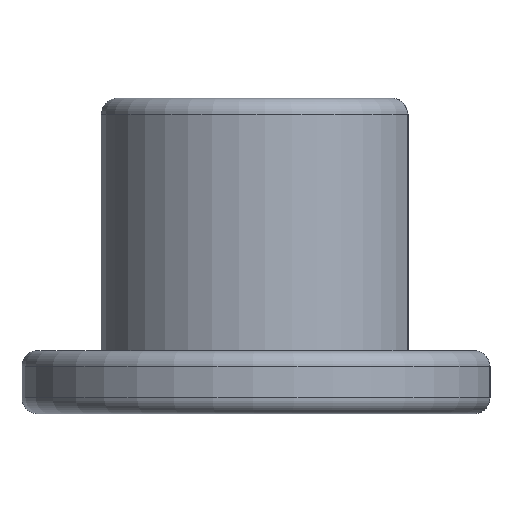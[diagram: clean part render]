
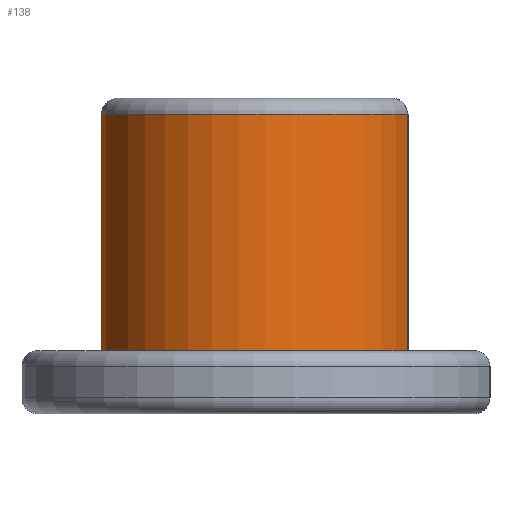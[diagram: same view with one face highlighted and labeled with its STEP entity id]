
A CAD part, left-side view. The second image highlights one B-rep face of the part: STEP entity #138.
In plain terms, the highlighted cylindrical face has radius 5 mm (diameter 10 mm), a partial arc.
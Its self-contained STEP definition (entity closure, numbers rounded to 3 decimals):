
#27 = LINE ( 'NONE', #808, #460 ) ;
#49 = VERTEX_POINT ( 'NONE', #156 ) ;
#62 = DIRECTION ( 'NONE',  ( 0., 0., -1. ) ) ;
#89 = LINE ( 'NONE', #256, #897 ) ;
#138 = ADVANCED_FACE ( 'NONE', ( #241 ), #531, .T. ) ;
#156 = CARTESIAN_POINT ( 'NONE',  ( 1.667, -4.714, -3. ) ) ;
#158 = EDGE_CURVE ( 'NONE', #904, #49, #27, .T. ) ;
#176 = DIRECTION ( 'NONE',  ( 0., 0., -1. ) ) ;
#219 = EDGE_CURVE ( 'NONE', #761, #904, #333, .T. ) ;
#241 = FACE_OUTER_BOUND ( 'NONE', #912, .T. ) ;
#256 = CARTESIAN_POINT ( 'NONE',  ( -1.667, -4.714, 5. ) ) ;
#280 = CARTESIAN_POINT ( 'NONE',  ( 0., 0., -3. ) ) ;
#322 = ORIENTED_EDGE ( 'NONE', *, *, #925, .T. ) ;
#333 = CIRCLE ( 'NONE', #880, 5. ) ;
#389 = DIRECTION ( 'NONE',  ( 0., 0., 1. ) ) ;
#401 = DIRECTION ( 'NONE',  ( 0., 0., -1. ) ) ;
#412 = ORIENTED_EDGE ( 'NONE', *, *, #219, .T. ) ;
#460 = VECTOR ( 'NONE', #176, 1000. ) ;
#500 = DIRECTION ( 'NONE',  ( -1., 0., 0. ) ) ;
#517 = CARTESIAN_POINT ( 'NONE',  ( 1.667, -4.714, 4.5 ) ) ;
#518 = AXIS2_PLACEMENT_3D ( 'NONE', #597, #401, #610 ) ;
#521 = AXIS2_PLACEMENT_3D ( 'NONE', #280, #62, #500 ) ;
#531 = CYLINDRICAL_SURFACE ( 'NONE', #518, 5. ) ;
#597 = CARTESIAN_POINT ( 'NONE',  ( 0., 0., 5. ) ) ;
#610 = DIRECTION ( 'NONE',  ( -1., 0., 0. ) ) ;
#617 = CARTESIAN_POINT ( 'NONE',  ( 0., 0., 4.5 ) ) ;
#678 = DIRECTION ( 'NONE',  ( 0., 0., -1. ) ) ;
#690 = EDGE_CURVE ( 'NONE', #766, #49, #813, .T. ) ;
#707 = ORIENTED_EDGE ( 'NONE', *, *, #158, .T. ) ;
#717 = CARTESIAN_POINT ( 'NONE',  ( -1.667, -4.714, 4.5 ) ) ;
#719 = CARTESIAN_POINT ( 'NONE',  ( -1.667, -4.714, -3. ) ) ;
#761 = VERTEX_POINT ( 'NONE', #717 ) ;
#766 = VERTEX_POINT ( 'NONE', #719 ) ;
#808 = CARTESIAN_POINT ( 'NONE',  ( 1.667, -4.714, 5. ) ) ;
#813 = CIRCLE ( 'NONE', #521, 5. ) ;
#835 = ORIENTED_EDGE ( 'NONE', *, *, #690, .F. ) ;
#880 = AXIS2_PLACEMENT_3D ( 'NONE', #617, #678, #898 ) ;
#897 = VECTOR ( 'NONE', #389, 1000. ) ;
#898 = DIRECTION ( 'NONE',  ( 1., 0., 0. ) ) ;
#904 = VERTEX_POINT ( 'NONE', #517 ) ;
#912 = EDGE_LOOP ( 'NONE', ( #412, #707, #835, #322 ) ) ;
#925 = EDGE_CURVE ( 'NONE', #766, #761, #89, .T. ) ;
